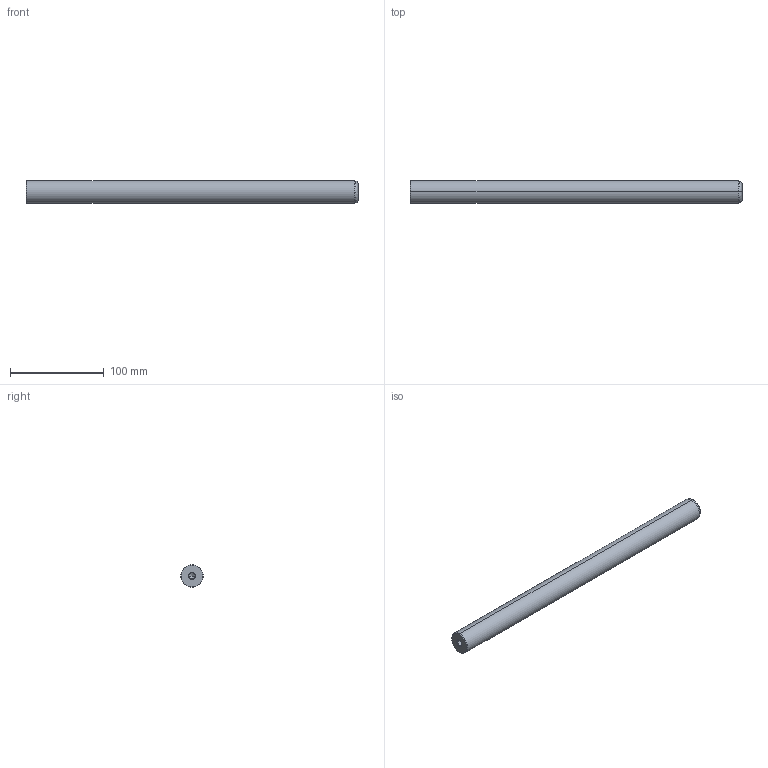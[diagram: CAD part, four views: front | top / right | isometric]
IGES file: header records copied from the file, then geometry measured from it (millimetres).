
Start section: START RECORD GO HERE.
Global section: file name: 720-24x355.igs; native system: DASSAULT SYSTEMES CATIA V5 R20 - www.3ds.com; preprocessor: CATIA Version 5 Release 20 ; author: Utente; organization: NB04-ASUS; date: 20210101.134748; units: millimetre
Bounding box: 355 x 24 x 24 mm (x, y, z)
Surface area: 28506.4 mm2 (no closed solid volume)
Topology: 0 solids, 0 shells, 22 faces, 120 edges, 116 vertices
Faces by surface type: revolution 20, plane 2
